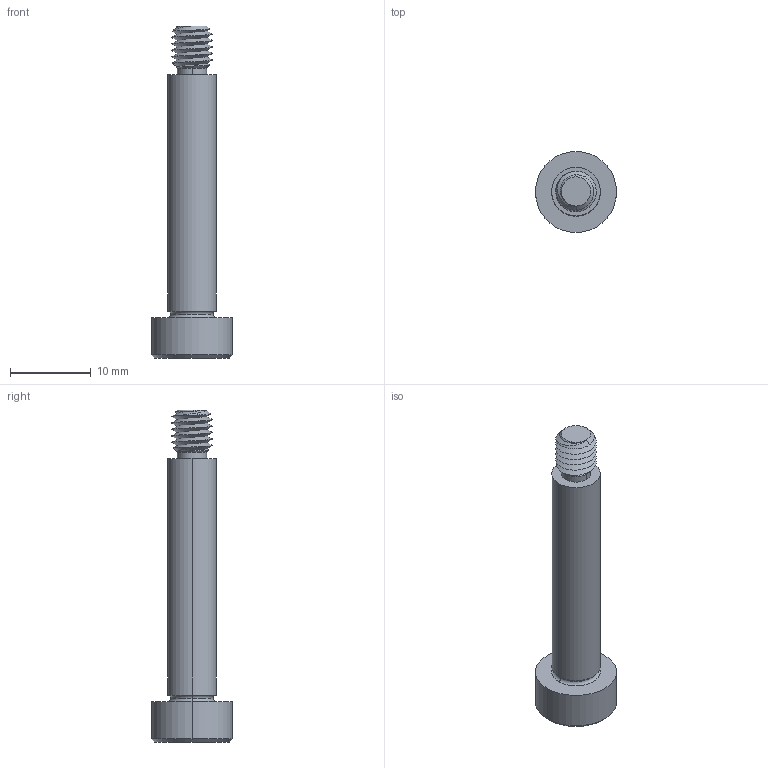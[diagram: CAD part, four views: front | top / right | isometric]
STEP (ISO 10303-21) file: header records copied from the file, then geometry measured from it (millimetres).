
FILE_DESCRIPTION (( 'STEP AP203' ), '1' );
FILE_NAME ('P0130.060-030-B2.step', '2021-11-09T21:26:58', ( '' ), ( '' ), 'SwSTEP 2.0', 'SolidWorks 2019', '' );
FILE_SCHEMA (( 'CONFIG_CONTROL_DESIGN' ));
Length unit declared in the file: millimetre
Products named in the file (1): P0130.060-030-B2
Bounding box: 10 x 10 x 41 mm (x, y, z)
Volume: 1292.3 mm3; surface area: 1053 mm2
Topology: 1 solids, 1 shells, 53 faces, 121 edges, 71 vertices
Faces by surface type: cylinder 17, plane 16, cone 14, torus 4, bspline 2
Entity records: 2367 total; most frequent: CARTESIAN_POINT 1186, ORIENTED_EDGE 238, DIRECTION 226, EDGE_CURVE 119, AXIS2_PLACEMENT_3D 92, VERTEX_POINT 71, EDGE_LOOP 56, ADVANCED_FACE 53
